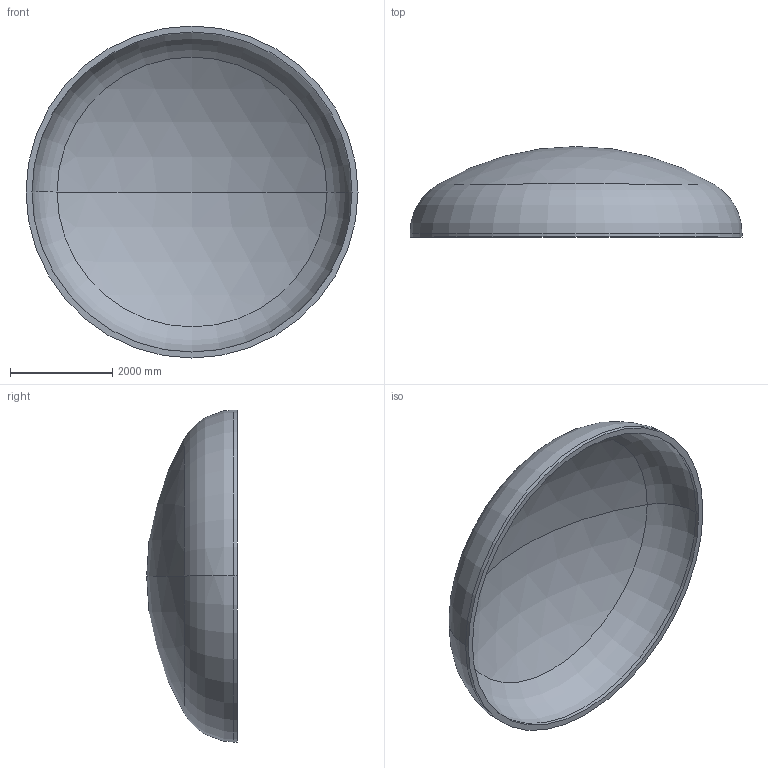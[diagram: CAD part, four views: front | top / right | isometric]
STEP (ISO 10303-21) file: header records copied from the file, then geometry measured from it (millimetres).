
FILE_DESCRIPTION (( 'STEP AP203' ), '1' );
FILE_NAME ('DIN 28013 Korbbogenform_-_Boden DIN 28013 - 6500 x 75 - I - s=116.step', '2016-07-04T10:44:30', ( '' ), ( '' ), 'SwSTEP 2.0', 'SolidWorks 2013', '' );
FILE_SCHEMA (( 'CONFIG_CONTROL_DESIGN' ));
Length unit declared in the file: millimetre
Products named in the file (1): DIN 28013 Korbbogenform_-_Boden DIN 28013 - 6500 x 75 - I - s=116
Bounding box: 6500 x 1773.54 x 6500 mm (x, y, z)
Volume: 5380623406.1 mm3; surface area: 95124004 mm2
Topology: 1 solids, 1 shells, 13 faces, 24 edges, 14 vertices
Faces by surface type: torus 4, cylinder 4, sphere 4, plane 1
Entity records: 407 total; most frequent: DIRECTION 72, CARTESIAN_POINT 52, ORIENTED_EDGE 48, AXIS2_PLACEMENT_3D 34, EDGE_CURVE 24, CIRCLE 20, EDGE_LOOP 14, VERTEX_POINT 14
